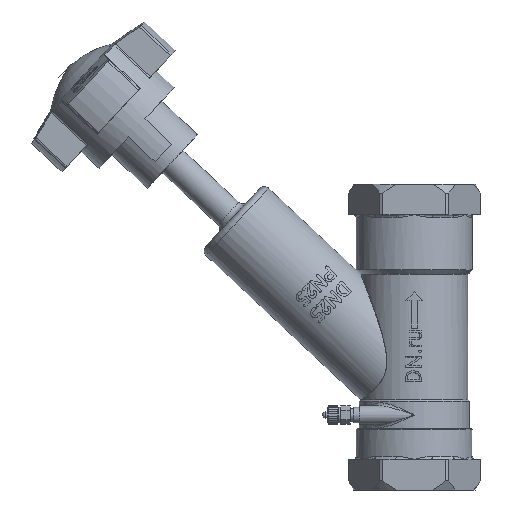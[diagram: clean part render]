
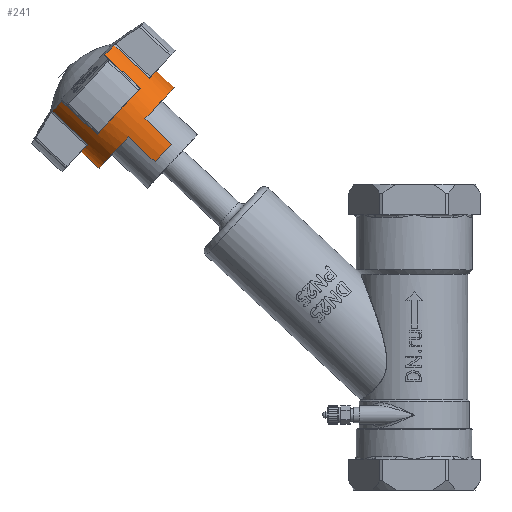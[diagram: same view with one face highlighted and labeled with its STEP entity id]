
A CAD part, left-side view. The second image highlights one B-rep face of the part: STEP entity #241.
In plain terms, the highlighted cylindrical face has radius 18 mm (diameter 36 mm), a full revolution.
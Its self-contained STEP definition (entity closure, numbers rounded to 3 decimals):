
#241=ADVANCED_FACE('',(#7083,#7085),#7087,.T.);
#7083=FACE_BOUND('',#7084,.T.);
#7084=EDGE_LOOP('',(#13384,#13385,#13386,#13387,#13388,#13389,#13390,#13391,#13392,
#13393,#13394,#13395,#13396,#13397,#13398,#13399,#13400));
#7085=FACE_BOUND('',#7086,.T.);
#7086=EDGE_LOOP('',(#13401,#13402,#13403,#13404,#13405));
#7087=CYLINDRICAL_SURFACE('',#7088,18.);
#7088=AXIS2_PLACEMENT_3D('',#7089,#7090,#7091);
#7089=CARTESIAN_POINT('',(0.,96.619,73.79));
#7090=DIRECTION('',(0.,0.731,0.682));
#7091=DIRECTION('',(0.,-0.682,0.731));
#13384=ORIENTED_EDGE('',*,*,#18425,.F.);
#13385=ORIENTED_EDGE('',*,*,#18426,.F.);
#13386=ORIENTED_EDGE('',*,*,#18427,.F.);
#13387=ORIENTED_EDGE('',*,*,#18428,.T.);
#13388=ORIENTED_EDGE('',*,*,#18429,.F.);
#13389=ORIENTED_EDGE('',*,*,#18430,.F.);
#13390=ORIENTED_EDGE('',*,*,#18431,.F.);
#13391=ORIENTED_EDGE('',*,*,#18432,.T.);
#13392=ORIENTED_EDGE('',*,*,#18433,.F.);
#13393=ORIENTED_EDGE('',*,*,#18434,.F.);
#13394=ORIENTED_EDGE('',*,*,#18435,.F.);
#13395=ORIENTED_EDGE('',*,*,#18436,.T.);
#13396=ORIENTED_EDGE('',*,*,#18437,.F.);
#13397=ORIENTED_EDGE('',*,*,#18438,.F.);
#13398=ORIENTED_EDGE('',*,*,#18439,.F.);
#13399=ORIENTED_EDGE('',*,*,#18440,.F.);
#13400=ORIENTED_EDGE('',*,*,#18441,.T.);
#13401=ORIENTED_EDGE('',*,*,#18422,.F.);
#13402=ORIENTED_EDGE('',*,*,#18421,.T.);
#13403=ORIENTED_EDGE('',*,*,#18418,.F.);
#13404=ORIENTED_EDGE('',*,*,#18416,.F.);
#13405=ORIENTED_EDGE('',*,*,#18423,.F.);
#18416=EDGE_CURVE('',#20492,#20494,#20495,.T.);
#18418=EDGE_CURVE('',#20494,#20497,#20498,.T.);
#18421=EDGE_CURVE('',#20500,#20497,#20502,.T.);
#18422=EDGE_CURVE('',#20500,#20503,#20504,.T.);
#18423=EDGE_CURVE('',#20503,#20492,#20505,.T.);
#18425=EDGE_CURVE('',#20508,#20509,#20510,.T.);
#18426=EDGE_CURVE('',#20511,#20508,#20512,.T.);
#18427=EDGE_CURVE('',#20513,#20511,#20514,.T.);
#18428=EDGE_CURVE('',#20513,#20515,#20516,.F.);
#18429=EDGE_CURVE('',#20517,#20515,#20518,.T.);
#18430=EDGE_CURVE('',#20519,#20517,#20520,.T.);
#18431=EDGE_CURVE('',#20521,#20519,#20522,.T.);
#18432=EDGE_CURVE('',#20521,#20523,#20524,.F.);
#18433=EDGE_CURVE('',#20525,#20523,#20526,.T.);
#18434=EDGE_CURVE('',#20527,#20525,#20528,.T.);
#18435=EDGE_CURVE('',#20529,#20527,#20530,.T.);
#18436=EDGE_CURVE('',#20529,#20531,#20532,.F.);
#18437=EDGE_CURVE('',#20533,#20531,#20534,.T.);
#18438=EDGE_CURVE('',#20535,#20533,#20536,.T.);
#18439=EDGE_CURVE('',#20537,#20535,#20538,.T.);
#18440=EDGE_CURVE('',#20539,#20537,#20540,.T.);
#18441=EDGE_CURVE('',#20539,#20509,#20541,.F.);
#20492=VERTEX_POINT('',#23932);
#20494=VERTEX_POINT('',#23936);
#20495=LINE('',#23937,#23938);
#20497=VERTEX_POINT('',#23943);
#20498=CIRCLE('',#23944,18.);
#20500=VERTEX_POINT('',#23951);
#20502=LINE('',#23955,#23956);
#20503=VERTEX_POINT('',#23958);
#20504=CIRCLE('',#23959,18.);
#20505=CIRCLE('',#23963,18.);
#20508=VERTEX_POINT('',#23972);
#20509=VERTEX_POINT('',#23973);
#20510=LINE('',#23974,#23975);
#20511=VERTEX_POINT('',#23977);
#20512=CIRCLE('',#23978,18.);
#20513=VERTEX_POINT('',#23982);
#20514=LINE('',#23983,#23984);
#20515=VERTEX_POINT('',#23986);
#20516=CIRCLE('',#23987,18.);
#20517=VERTEX_POINT('',#23991);
#20518=LINE('',#23992,#23993);
#20519=VERTEX_POINT('',#23995);
#20520=CIRCLE('',#23996,18.);
#20521=VERTEX_POINT('',#24000);
#20522=LINE('',#24001,#24002);
#20523=VERTEX_POINT('',#24004);
#20524=CIRCLE('',#24005,18.);
#20525=VERTEX_POINT('',#24009);
#20526=LINE('',#24010,#24011);
#20527=VERTEX_POINT('',#24013);
#20528=CIRCLE('',#24014,18.);
#20529=VERTEX_POINT('',#24018);
#20530=LINE('',#24019,#24020);
#20531=VERTEX_POINT('',#24022);
#20532=CIRCLE('',#24023,18.);
#20533=VERTEX_POINT('',#24027);
#20534=LINE('',#24028,#24029);
#20535=VERTEX_POINT('',#24031);
#20536=CIRCLE('',#24032,18.);
#20537=VERTEX_POINT('',#24036);
#20538=CIRCLE('',#24037,18.);
#20539=VERTEX_POINT('',#24041);
#20540=LINE('',#24042,#24043);
#20541=CIRCLE('',#24045,18.);
#23932=CARTESIAN_POINT('',(-17.55,88.041,71.259));
#23936=CARTESIAN_POINT('',(-17.55,79.264,63.075));
#23937=CARTESIAN_POINT('',(-17.55,88.041,71.259));
#23938=VECTOR('',#23939,1.);
#23939=DIRECTION('',(0.,-0.731,-0.682));
#23943=CARTESIAN_POINT('',(-17.55,84.72,57.225));
#23944=AXIS2_PLACEMENT_3D('',#23945,#23946,#23947);
#23945=CARTESIAN_POINT('',(0.,81.992,60.15));
#23946=DIRECTION('',(0.,-0.731,-0.682));
#23947=DIRECTION('',(-0.975,-0.152,0.163));
#23951=CARTESIAN_POINT('',(-17.55,93.497,65.409));
#23955=CARTESIAN_POINT('',(-17.55,93.497,65.409));
#23956=VECTOR('',#23957,1.);
#23957=DIRECTION('',(0.,-0.731,-0.682));
#23958=CARTESIAN_POINT('',(0.,103.045,55.17));
#23959=AXIS2_PLACEMENT_3D('',#23960,#23961,#23962);
#23960=CARTESIAN_POINT('',(0.,90.769,68.334));
#23961=DIRECTION('',(0.,-0.731,-0.682));
#23962=DIRECTION('',(-0.975,0.152,-0.163));
#23963=AXIS2_PLACEMENT_3D('',#23964,#23965,#23966);
#23964=CARTESIAN_POINT('',(0.,90.769,68.334));
#23965=DIRECTION('',(0.,-0.731,-0.682));
#23966=DIRECTION('',(0.,0.682,-0.731));
#23972=CARTESIAN_POINT('',(14.733,103.672,66.227));
#23973=CARTESIAN_POINT('',(14.733,115.277,77.049));
#23974=CARTESIAN_POINT('',(14.733,103.672,66.227));
#23975=VECTOR('',#23976,1.);
#23976=DIRECTION('',(0.,0.731,0.682));
#23977=CARTESIAN_POINT('',(14.733,89.567,81.353));
#23978=AXIS2_PLACEMENT_3D('',#23979,#23980,#23981);
#23979=CARTESIAN_POINT('',(0.,96.619,73.79));
#23980=DIRECTION('',(0.,0.731,0.682));
#23981=DIRECTION('',(0.819,-0.392,0.42));
#23982=CARTESIAN_POINT('',(14.733,101.172,92.175));
#23983=CARTESIAN_POINT('',(14.733,101.172,92.175));
#23984=VECTOR('',#23985,1.);
#23985=DIRECTION('',(0.,-0.731,-0.682));
#23986=CARTESIAN_POINT('',(10.34,98.176,95.387));
#23987=AXIS2_PLACEMENT_3D('',#23988,#23989,#23990);
#23988=CARTESIAN_POINT('',(0.,108.225,84.612));
#23989=DIRECTION('',(0.,0.731,0.682));
#23990=DIRECTION('',(0.574,-0.558,0.599));
#23991=CARTESIAN_POINT('',(10.34,86.571,84.565));
#23992=CARTESIAN_POINT('',(10.34,86.571,84.565));
#23993=VECTOR('',#23994,1.);
#23994=DIRECTION('',(0.,0.731,0.682));
#23995=CARTESIAN_POINT('',(-10.34,86.571,84.565));
#23996=AXIS2_PLACEMENT_3D('',#23997,#23998,#23999);
#23997=CARTESIAN_POINT('',(0.,96.619,73.79));
#23998=DIRECTION('',(0.,0.731,0.682));
#23999=DIRECTION('',(-0.574,-0.558,0.599));
#24000=CARTESIAN_POINT('',(-10.34,98.176,95.387));
#24001=CARTESIAN_POINT('',(-10.34,98.176,95.387));
#24002=VECTOR('',#24003,1.);
#24003=DIRECTION('',(0.,-0.731,-0.682));
#24004=CARTESIAN_POINT('',(-14.733,101.172,92.175));
#24005=AXIS2_PLACEMENT_3D('',#24006,#24007,#24008);
#24006=CARTESIAN_POINT('',(0.,108.225,84.612));
#24007=DIRECTION('',(0.,0.731,0.682));
#24008=DIRECTION('',(-0.819,-0.392,0.42));
#24009=CARTESIAN_POINT('',(-14.733,89.567,81.353));
#24010=CARTESIAN_POINT('',(-14.733,89.567,81.353));
#24011=VECTOR('',#24012,1.);
#24012=DIRECTION('',(0.,0.731,0.682));
#24013=CARTESIAN_POINT('',(-14.733,103.672,66.227));
#24014=AXIS2_PLACEMENT_3D('',#24015,#24016,#24017);
#24015=CARTESIAN_POINT('',(0.,96.619,73.79));
#24016=DIRECTION('',(0.,0.731,0.682));
#24017=DIRECTION('',(-0.819,0.392,-0.42));
#24018=CARTESIAN_POINT('',(-14.733,115.277,77.049));
#24019=CARTESIAN_POINT('',(-14.733,115.277,77.049));
#24020=VECTOR('',#24021,1.);
#24021=DIRECTION('',(0.,-0.731,-0.682));
#24022=CARTESIAN_POINT('',(-10.34,118.273,73.837));
#24023=AXIS2_PLACEMENT_3D('',#24024,#24025,#24026);
#24024=CARTESIAN_POINT('',(0.,108.225,84.612));
#24025=DIRECTION('',(0.,0.731,0.682));
#24026=DIRECTION('',(-0.574,0.558,-0.599));
#24027=CARTESIAN_POINT('',(-10.34,106.668,63.015));
#24028=CARTESIAN_POINT('',(-10.34,106.668,63.015));
#24029=VECTOR('',#24030,1.);
#24030=DIRECTION('',(0.,0.731,0.682));
#24031=CARTESIAN_POINT('',(0.,108.895,60.626));
#24032=AXIS2_PLACEMENT_3D('',#24033,#24034,#24035);
#24033=CARTESIAN_POINT('',(0.,96.619,73.79));
#24034=DIRECTION('',(0.,0.731,0.682));
#24035=DIRECTION('',(0.,0.682,-0.731));
#24036=CARTESIAN_POINT('',(10.34,106.668,63.015));
#24037=AXIS2_PLACEMENT_3D('',#24038,#24039,#24040);
#24038=CARTESIAN_POINT('',(0.,96.619,73.79));
#24039=DIRECTION('',(0.,0.731,0.682));
#24040=DIRECTION('',(0.574,0.558,-0.599));
#24041=CARTESIAN_POINT('',(10.34,118.273,73.837));
#24042=CARTESIAN_POINT('',(10.34,118.273,73.837));
#24043=VECTOR('',#24044,1.);
#24044=DIRECTION('',(0.,-0.731,-0.682));
#24045=AXIS2_PLACEMENT_3D('',#24046,#24047,#24048);
#24046=CARTESIAN_POINT('',(0.,108.225,84.612));
#24047=DIRECTION('',(0.,0.731,0.682));
#24048=DIRECTION('',(0.819,0.392,-0.42));
